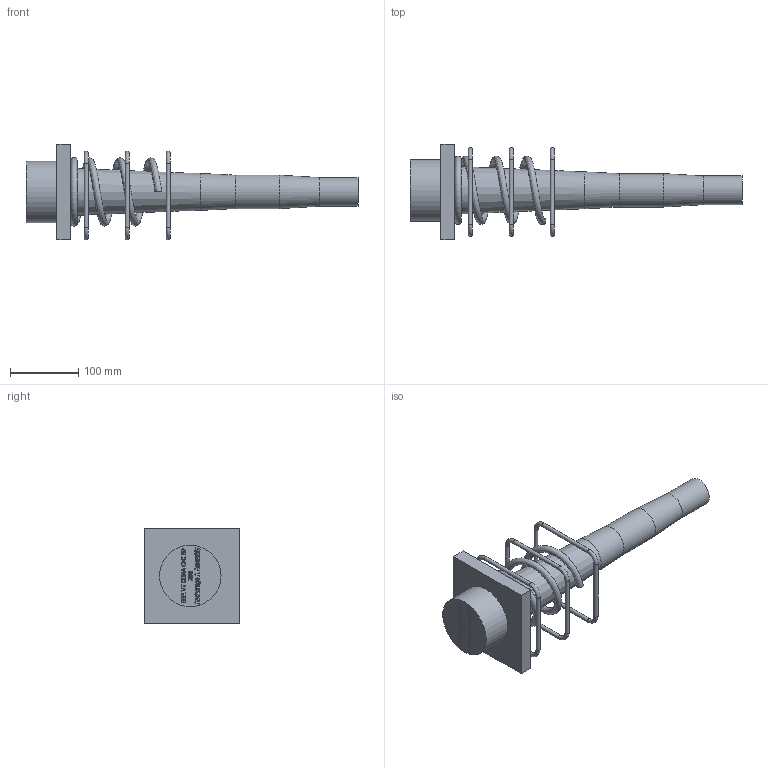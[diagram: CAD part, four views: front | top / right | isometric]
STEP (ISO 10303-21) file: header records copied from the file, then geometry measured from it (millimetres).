
FILE_DESCRIPTION(/* description */ (''),/* implementation_level */ '2;1');
FILE_NAME(/* name */ 'Z:\04 Publications\05 Give-out\BBR\6_3D_Models\BBR VT CONA CMI\BBR VT CONA CMI SP\00206\BBR VT CONA CMI SP 206_Anchorage A Assembly_CS-34,28.stp',/* time_stamp */ '2017-05-05T13:17:08+02:00',/* author */ ('IP'),/* organization */ (''),/* preprocessor_version */ 'ST-DEVELOPER v16.1',/* originating_system */ 'Autodesk Inventor 2016',/* authorisation */ '');
FILE_SCHEMA (('AUTOMOTIVE_DESIGN { 1 0 10303 214 3 1 1 }'));
Length unit declared in the file: millimetre
Products named in the file (1): BBR VT CONA CMI SP 206_Anchorage A Assembly_CS-34,28
Bounding box: 486.1 x 140 x 140.25 mm (x, y, z)
Volume: 1768007.5 mm3; surface area: 189584.3 mm2
Topology: 5 solids, 5 shells, 627 faces, 1678 edges, 1110 vertices
Faces by surface type: plane 303, bspline 293, cylinder 15, torus 15, cone 1
Full cylindrical faces by diameter (mm): 6 x12, 42 x1, 49 x1, 90 x1
Entity records: 22677 total; most frequent: CARTESIAN_POINT 8453, ORIENTED_EDGE 3296, DIRECTION 1770, EDGE_CURVE 1647, VERTEX_POINT 1109, LINE 1024, VECTOR 1024, EDGE_LOOP 713
